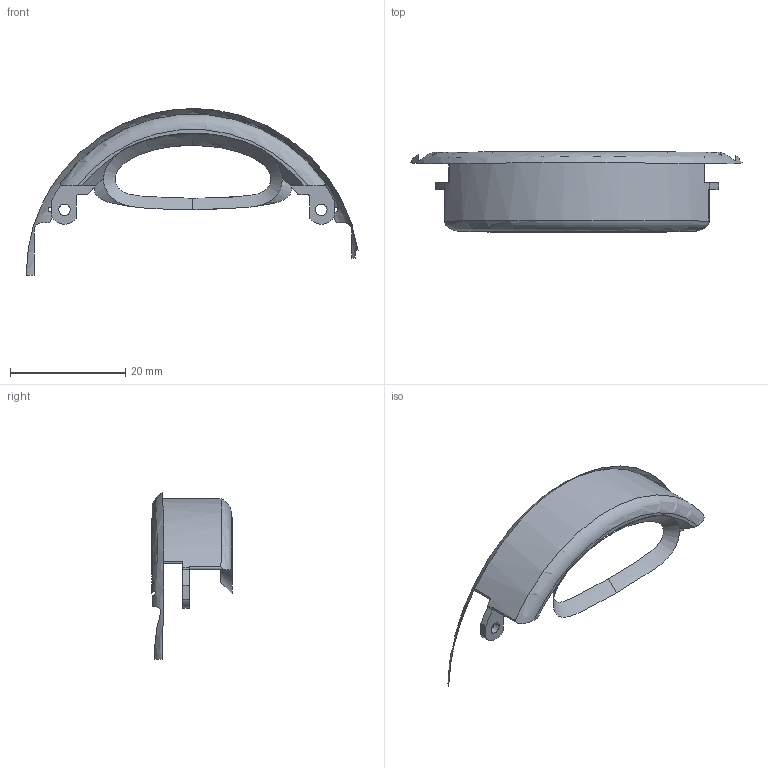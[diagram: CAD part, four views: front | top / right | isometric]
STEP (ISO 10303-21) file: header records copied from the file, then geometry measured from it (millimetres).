
FILE_DESCRIPTION((''),'2;1');
FILE_NAME('GSM-ANT-BOTTOM_PRT','2008-06-30T',('GRA'),(''),'PRO/ENGINEER BY PARAMETRIC TECHNOLOGY CORPORATION, 2006170','PRO/ENGINEER BY PARAMETRIC TECHNOLOGY CORPORATION, 2006170','');
FILE_SCHEMA(('CONFIG_CONTROL_DESIGN'));
Length unit declared in the file: millimetre
Products named in the file (1): GSM-ANT-BOTTOM_PRT
Bounding box: 57.68 x 14 x 29 mm (x, y, z)
Volume: 2980.5 mm3; surface area: 2472.8 mm2
Topology: 1 solids, 7 shells, 54 faces, 189 edges, 142 vertices
Faces by surface type: bspline 17, plane 16, cylinder 16, cone 4, torus 1
Entity records: 4333 total; most frequent: CARTESIAN_POINT 2855, ORIENTED_EDGE 322, DIRECTION 222, EDGE_CURVE 189, VERTEX_POINT 142, B_SPLINE_CURVE_WITH_KNOTS 89, AXIS2_PLACEMENT_3D 84, EDGE_LOOP 58
